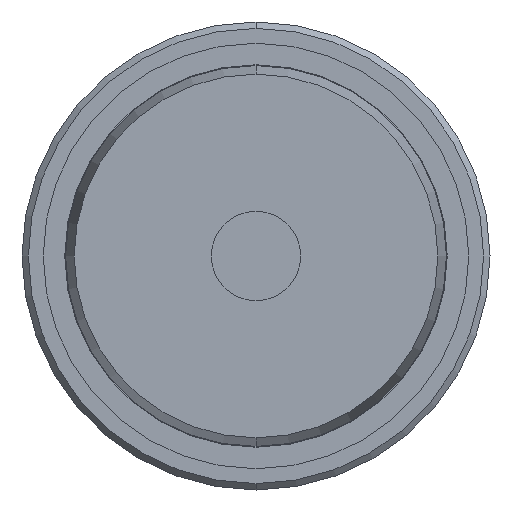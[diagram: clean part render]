
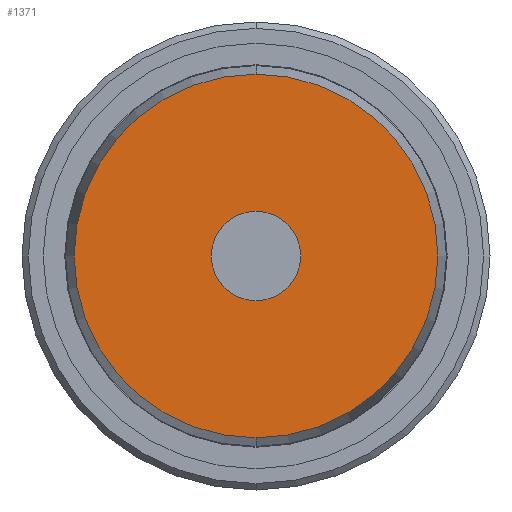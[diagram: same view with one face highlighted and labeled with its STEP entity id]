
A CAD part, front view. The second image highlights one B-rep face of the part: STEP entity #1371.
In plain terms, the highlighted planar face has unit normal (0, -1, 0).
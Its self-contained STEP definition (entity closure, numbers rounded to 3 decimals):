
#89 = FACE_OUTER_BOUND ( 'NONE', #2649, .T. ) ;
#116 = DIRECTION ( 'NONE',  ( 0., 0., -1. ) ) ;
#129 = DIRECTION ( 'NONE',  ( 0., -1., 0. ) ) ;
#141 = CARTESIAN_POINT ( 'NONE',  ( 0., -3., 0. ) ) ;
#168 = ORIENTED_EDGE ( 'NONE', *, *, #1010, .F. ) ;
#201 = VERTEX_POINT ( 'NONE', #2788 ) ;
#335 = CIRCLE ( 'NONE', #787, 2.1 ) ;
#587 = AXIS2_PLACEMENT_3D ( 'NONE', #2442, #2494, #2496 ) ;
#782 = CARTESIAN_POINT ( 'NONE',  ( 0., -3., 0. ) ) ;
#787 = AXIS2_PLACEMENT_3D ( 'NONE', #141, #129, #116 ) ;
#1010 = EDGE_CURVE ( 'NONE', #1071, #1077, #3087, .T. ) ;
#1057 = AXIS2_PLACEMENT_3D ( 'NONE', #782, #2581, #1097 ) ;
#1071 = VERTEX_POINT ( 'NONE', #1288 ) ;
#1077 = VERTEX_POINT ( 'NONE', #1283 ) ;
#1097 = DIRECTION ( 'NONE',  ( 0., 0., -1. ) ) ;
#1146 = CARTESIAN_POINT ( 'NONE',  ( 0., -3., 0. ) ) ;
#1156 = DIRECTION ( 'NONE',  ( 0., -1., 0. ) ) ;
#1164 = DIRECTION ( 'NONE',  ( 0., 0., -1. ) ) ;
#1223 = ORIENTED_EDGE ( 'NONE', *, *, #2366, .T. ) ;
#1272 = AXIS2_PLACEMENT_3D ( 'NONE', #1146, #1156, #1164 ) ;
#1283 = CARTESIAN_POINT ( 'NONE',  ( 0., -3., 2.1 ) ) ;
#1288 = CARTESIAN_POINT ( 'NONE',  ( 0., -3., -2.1 ) ) ;
#1292 = VERTEX_POINT ( 'NONE', #2199 ) ;
#1371 = ADVANCED_FACE ( 'NONE', ( #89, #1837 ), #2347, .T. ) ;
#1538 = AXIS2_PLACEMENT_3D ( 'NONE', #2509, #3293, #1924 ) ;
#1718 = ORIENTED_EDGE ( 'NONE', *, *, #2736, .T. ) ;
#1837 = FACE_BOUND ( 'NONE', #2369, .T. ) ;
#1924 = DIRECTION ( 'NONE',  ( 0., 0., -1. ) ) ;
#2123 = CIRCLE ( 'NONE', #1057, 8.548 ) ;
#2199 = CARTESIAN_POINT ( 'NONE',  ( 0., -3., -8.548 ) ) ;
#2246 = CIRCLE ( 'NONE', #1538, 8.548 ) ;
#2330 = EDGE_CURVE ( 'NONE', #1077, #1071, #335, .T. ) ;
#2347 = PLANE ( 'NONE',  #587 ) ;
#2366 = EDGE_CURVE ( 'NONE', #1292, #201, #2246, .T. ) ;
#2369 = EDGE_LOOP ( 'NONE', ( #168, #2486 ) ) ;
#2442 = CARTESIAN_POINT ( 'NONE',  ( 0., -3., 0. ) ) ;
#2486 = ORIENTED_EDGE ( 'NONE', *, *, #2330, .F. ) ;
#2494 = DIRECTION ( 'NONE',  ( 0., -1., 0. ) ) ;
#2496 = DIRECTION ( 'NONE',  ( 0., 0., -1. ) ) ;
#2509 = CARTESIAN_POINT ( 'NONE',  ( 0., -3., 0. ) ) ;
#2581 = DIRECTION ( 'NONE',  ( 0., -1., 0. ) ) ;
#2649 = EDGE_LOOP ( 'NONE', ( #1718, #1223 ) ) ;
#2736 = EDGE_CURVE ( 'NONE', #201, #1292, #2123, .T. ) ;
#2788 = CARTESIAN_POINT ( 'NONE',  ( 0., -3., 8.548 ) ) ;
#3087 = CIRCLE ( 'NONE', #1272, 2.1 ) ;
#3293 = DIRECTION ( 'NONE',  ( 0., -1., 0. ) ) ;
